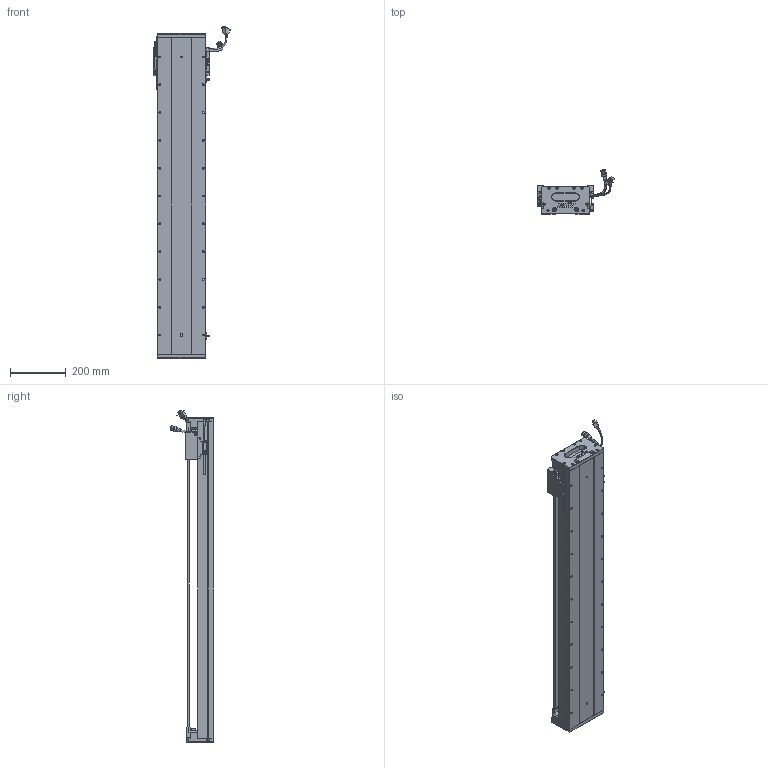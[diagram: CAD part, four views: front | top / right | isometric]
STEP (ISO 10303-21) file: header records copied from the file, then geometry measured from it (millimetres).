
FILE_DESCRIPTION (( 'STEP AP203' ), '1' );
FILE_NAME ('Z1-RY170D-1-L500-B-K.SLDASM_0950.step', '2021-05-17T08:52:14', ( '盈信电脑' ), ( '东莞市道滘镇水果街19号' ), 'SwSTEP 2.0', 'SolidWorks 2016', '' );
FILE_SCHEMA (( 'CONFIG_CONTROL_DESIGN' ));
Length unit declared in the file: millimetre
Products named in the file (36): RY170直线电机感应器672光电感应片; HARNESS-Part-2; PBU_SHEET; HARNESS; HOLDER0; COVER-Part-1; Z1-RY170-L500詩湍145mm遵_0950; 榋妏寠巭燃_暯_M2_2; SCREW-M1.7-1; SEAL; SCREW-M1.7; SEAL-Part-1; Z-170詩湍傷裔啣; COVER; LABEL-Part-1; Z1-RY170臏賑輸(21遴); 140雄赽晤鎢ん堤盄; SCALE-Part-1; 覜茼ん672; LABEL; Z-RY170詩湍狟揤裔; SCREW-M1.6-3; SHIELDPLATE; 080黍杅芛假蚾釱21遴; SCREW-M1.6; 140蚥薯蝶輸; SCREW-M1.6-2; SCREW-M1.6-1; 170-Z-臏賑輸盄裔(21遴); Z-RY170詩湍奻揤裔; Z1-RY170-L500耀郪菁釱_0950; SCALE; SCALE-Part-2; Z1-RY170D-1-L500-B-K.SLDASM_0950; PSLH080_PSLF2; HARNESS-Part-1
Assembly tree (41 placements, depth 4):
  Z1-RY170D-1-L500-B-K.SLDASM_0950
    Z1-RY170-L500耀郪菁釱_0950
    RY170直线电机感应器672光电感应片
    Z1-RY170臏賑輸(21遴)
    覜茼ん672  x3
    PSLH080_PSLF2
      SCALE
        SCALE-Part-1
        SCALE-Part-2
      HARNESS
        HARNESS-Part-1
        HARNESS-Part-2
      LABEL
        LABEL-Part-1
      COVER
        COVER-Part-1
      SEAL
        SEAL-Part-1
      榋妏寠巭燃_暯_M2_2
      SHIELDPLATE
      SCREW-M1.7
      SCREW-M1.7-1
      PBU_SHEET
      SCREW-M1.6
      SCREW-M1.6-1
      SCREW-M1.6-2
      SCREW-M1.6-3
      HOLDER0
    080黍杅芛假蚾釱21遴
    Z1-RY170-L500詩湍145mm遵_0950
    Z-170詩湍傷裔啣  x2
    Z-RY170詩湍奻揤裔  x2
    Z-RY170詩湍狟揤裔  x2
    140蚥薯蝶輸  x2
    170-Z-臏賑輸盄裔(21遴)
    140雄赽晤鎢ん堤盄
Bounding box: 275.34 x 158.11 x 1193.72 mm (x, y, z)
Volume: 6289911.1 mm3; surface area: 1560613.7 mm2
Topology: 36 solids, 36 shells, 2992 faces, 8023 edges, 5045 vertices
Faces by surface type: cylinder 1358, plane 1148, cone 364, torus 69, bspline 53
Entity records: 87763 total; most frequent: CARTESIAN_POINT 22530, ORIENTED_EDGE 12890, DIRECTION 12629, EDGE_CURVE 6445, AXIS2_PLACEMENT_3D 4602, VERTEX_POINT 4163, LINE 3425, VECTOR 3425
